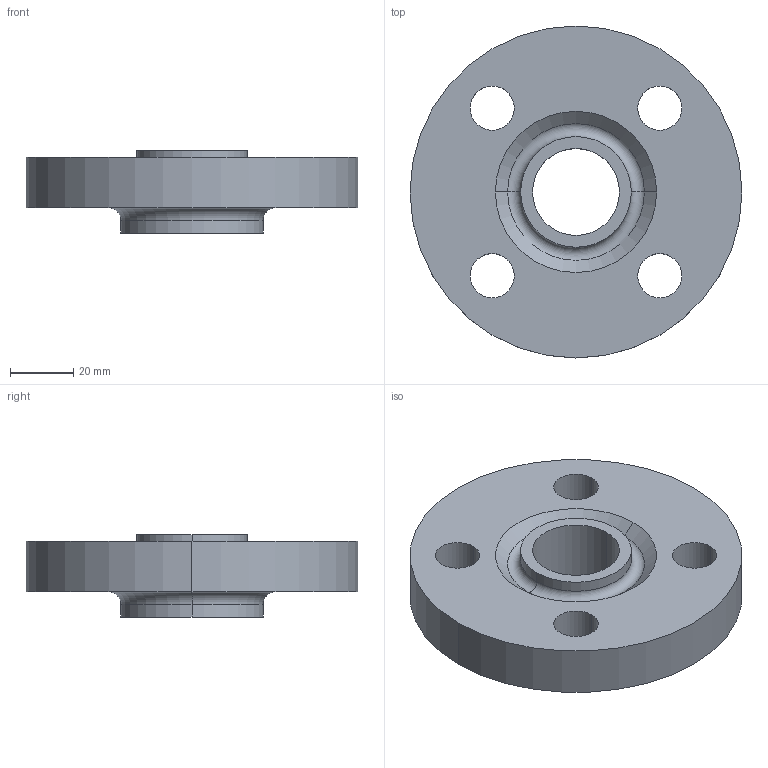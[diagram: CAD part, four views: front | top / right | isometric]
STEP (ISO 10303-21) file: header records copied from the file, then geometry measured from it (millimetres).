
FILE_DESCRIPTION (( 'STEP AP214' ), '1' );
FILE_NAME ('PN40 DN20 Type 12 - Type H Face.STEP', '2018-12-29T18:15:20', ( '' ), ( '' ), 'SwSTEP 2.0', 'SolidWorks 2019', '' );
FILE_SCHEMA (( 'AUTOMOTIVE_DESIGN' ));
Length unit declared in the file: millimetre
Products named in the file (1): PN40 DN20 Type 12 - Type H Face
Bounding box: 105 x 105 x 26 mm (x, y, z)
Volume: 125618.3 mm3; surface area: 26886.2 mm2
Topology: 1 solids, 1 shells, 26 faces, 60 edges, 38 vertices
Faces by surface type: cylinder 16, torus 4, plane 4, cone 2
Entity records: 812 total; most frequent: DIRECTION 156, CARTESIAN_POINT 125, ORIENTED_EDGE 120, AXIS2_PLACEMENT_3D 69, EDGE_CURVE 60, CIRCLE 42, VERTEX_POINT 38, EDGE_LOOP 38
